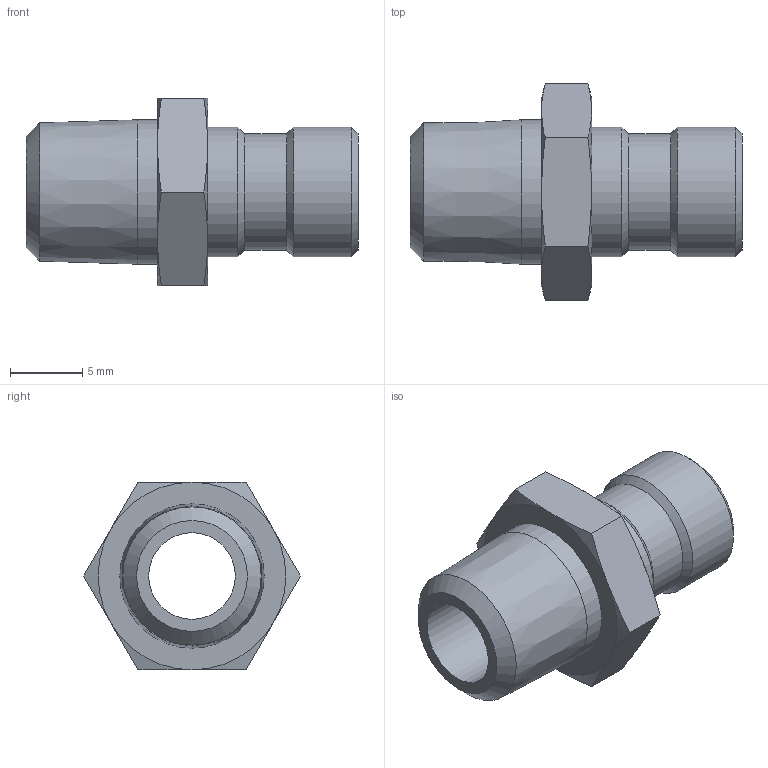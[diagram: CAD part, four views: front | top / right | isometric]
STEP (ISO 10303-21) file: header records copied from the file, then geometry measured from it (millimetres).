
FILE_DESCRIPTION(/* description */ ('STEP AP214'),/* implementation_level */ '2;1');
FILE_NAME(/* name */ 'N6MA',/* time_stamp */ '2024-12-19T09:28:37+01:00',/* author */ ('License CC BY-ND 4.0'),/* organization */ ('CADENAS'),/* preprocessor_version */ 'ST-DEVELOPER v19.3',/* originating_system */ 'PARTsolutions',/* authorisation */ ' ');
FILE_SCHEMA (('AUTOMOTIVE_DESIGN {1 0 10303 214 3 1 1}'));
Length unit declared in the file: millimetre
Products named in the file (1): N6MA
Bounding box: 23 x 15.01 x 13 mm (x, y, z)
Volume: 1146.9 mm3; surface area: 1361.7 mm2
Topology: 1 solids, 1 shells, 32 faces, 65 edges, 37 vertices
Faces by surface type: cone 17, plane 10, cylinder 5
Full cylindrical faces by diameter (mm): 6 x1, 8.04 x1, 9 x2, 10 x1
Entity records: 830 total; most frequent: CARTESIAN_POINT 197, DIRECTION 122, ORIENTED_EDGE 110, AXIS2_PLACEMENT_3D 58, EDGE_CURVE 55, EDGE_LOOP 46, FACE_BOUND 46, VERTEX_POINT 37
